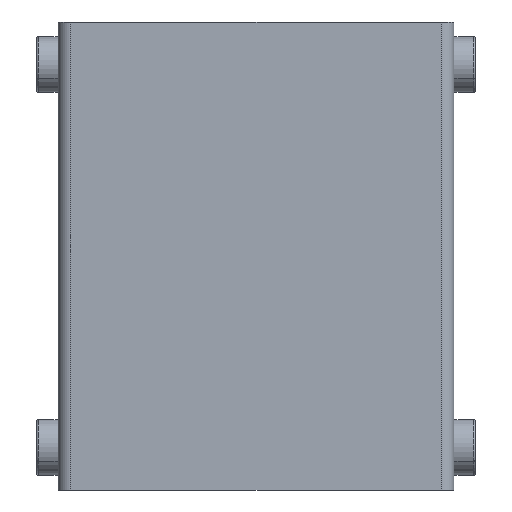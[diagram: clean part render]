
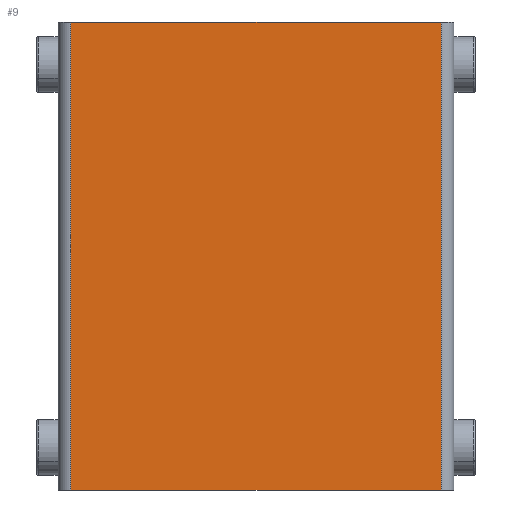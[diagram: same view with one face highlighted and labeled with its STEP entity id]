
A CAD part, front view. The second image highlights one B-rep face of the part: STEP entity #9.
In plain terms, the highlighted planar face has unit normal (0, -1, 0).
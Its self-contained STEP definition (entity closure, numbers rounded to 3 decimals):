
#9 = ADVANCED_FACE ( 'NONE', ( #707 ), #2716, .F. ) ;
#44 = EDGE_CURVE ( 'NONE', #949, #1200, #596, .T. ) ;
#113 = DIRECTION ( 'NONE',  ( 0., 0., -1. ) ) ;
#161 = EDGE_CURVE ( 'NONE', #1108, #918, #2547, .T. ) ;
#279 = CARTESIAN_POINT ( 'NONE',  ( -43.5, -46.5, 55. ) ) ;
#330 = CARTESIAN_POINT ( 'NONE',  ( -43.5, -46.5, 55. ) ) ;
#356 = DIRECTION ( 'NONE',  ( 0., 0., -1. ) ) ;
#367 = CARTESIAN_POINT ( 'NONE',  ( 43.5, -46.5, 55. ) ) ;
#420 = DIRECTION ( 'NONE',  ( 1., 0., 0. ) ) ;
#468 = LINE ( 'NONE', #330, #2239 ) ;
#499 = VECTOR ( 'NONE', #420, 1000. ) ;
#596 = LINE ( 'NONE', #2750, #499 ) ;
#616 = CARTESIAN_POINT ( 'NONE',  ( 43.5, -46.5, 55. ) ) ;
#707 = FACE_OUTER_BOUND ( 'NONE', #730, .T. ) ;
#723 = EDGE_CURVE ( 'NONE', #918, #1200, #1408, .T. ) ;
#730 = EDGE_LOOP ( 'NONE', ( #2644, #1850, #1875, #1881 ) ) ;
#763 = AXIS2_PLACEMENT_3D ( 'NONE', #1297, #2479, #837 ) ;
#837 = DIRECTION ( 'NONE',  ( 0., 0., 1. ) ) ;
#915 = DIRECTION ( 'NONE',  ( 1., 0., 0. ) ) ;
#918 = VERTEX_POINT ( 'NONE', #616 ) ;
#938 = VECTOR ( 'NONE', #356, 1000. ) ;
#949 = VERTEX_POINT ( 'NONE', #2975 ) ;
#1108 = VERTEX_POINT ( 'NONE', #279 ) ;
#1144 = CARTESIAN_POINT ( 'NONE',  ( -45., -46.5, 55. ) ) ;
#1194 = CARTESIAN_POINT ( 'NONE',  ( 43.5, -46.5, -55. ) ) ;
#1200 = VERTEX_POINT ( 'NONE', #1194 ) ;
#1297 = CARTESIAN_POINT ( 'NONE',  ( -45., -46.5, 55. ) ) ;
#1408 = LINE ( 'NONE', #367, #938 ) ;
#1850 = ORIENTED_EDGE ( 'NONE', *, *, #723, .F. ) ;
#1875 = ORIENTED_EDGE ( 'NONE', *, *, #161, .F. ) ;
#1881 = ORIENTED_EDGE ( 'NONE', *, *, #2203, .T. ) ;
#2203 = EDGE_CURVE ( 'NONE', #1108, #949, #468, .T. ) ;
#2239 = VECTOR ( 'NONE', #113, 1000. ) ;
#2479 = DIRECTION ( 'NONE',  ( 0., 1., 0. ) ) ;
#2547 = LINE ( 'NONE', #1144, #2705 ) ;
#2644 = ORIENTED_EDGE ( 'NONE', *, *, #44, .T. ) ;
#2705 = VECTOR ( 'NONE', #915, 1000. ) ;
#2716 = PLANE ( 'NONE',  #763 ) ;
#2750 = CARTESIAN_POINT ( 'NONE',  ( -45., -46.5, -55. ) ) ;
#2975 = CARTESIAN_POINT ( 'NONE',  ( -43.5, -46.5, -55. ) ) ;
